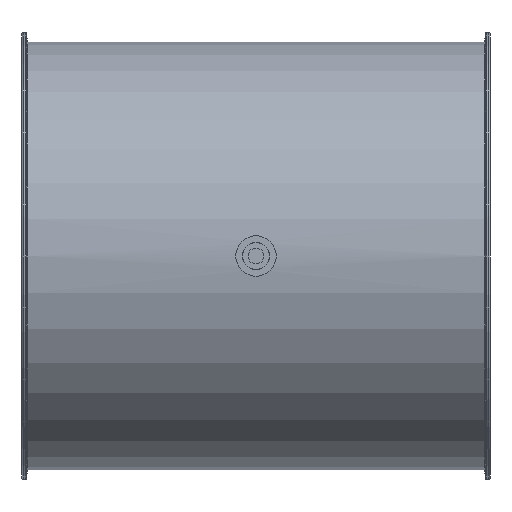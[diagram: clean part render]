
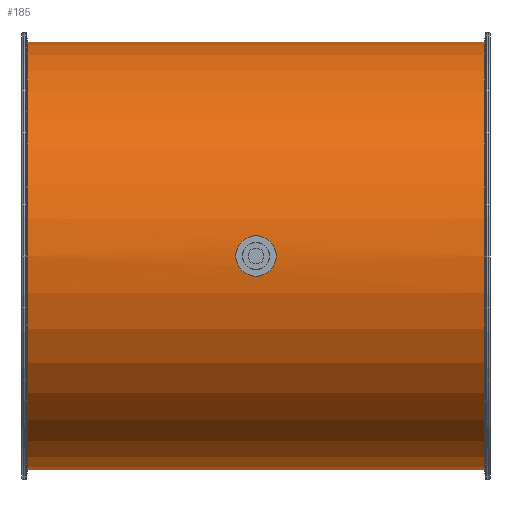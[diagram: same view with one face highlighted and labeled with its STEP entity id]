
A CAD part, front view. The second image highlights one B-rep face of the part: STEP entity #185.
In plain terms, the highlighted cylindrical face has radius 201 mm (diameter 402 mm), a full revolution.
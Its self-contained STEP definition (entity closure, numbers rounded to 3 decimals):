
#103=B_SPLINE_CURVE_WITH_KNOTS('',3,(#1421,#1422,#1423,#1424,#1425,#1426,
#1427,#1428,#1429,#1430,#1431,#1432,#1433,#1434,#1435,#1436,#1437,#1438),
 .UNSPECIFIED.,.T.,.F.,(2,2,2,2,2,2,2,2,2,2,2),(-0.125,0.,0.125,
0.25,0.375,0.5,0.625,
0.75,0.875,1.,1.125),.UNSPECIFIED.);
#104=B_SPLINE_CURVE_WITH_KNOTS('',3,(#1440,#1441,#1442,#1443,#1444,#1445,
#1446,#1447,#1448,#1449,#1450,#1451,#1452,#1453,#1454,#1455,#1456,#1457),
 .UNSPECIFIED.,.T.,.F.,(2,2,2,2,2,2,2,2,2,2,2),(-0.125,0.,0.125,
0.25,0.375,0.5,0.625,0.75,0.875,
1.,1.125),.UNSPECIFIED.);
#131=CYLINDRICAL_SURFACE('',#982,201.);
#185=ADVANCED_FACE('',(#317,#318,#319,#320),#131,.T.);
#317=FACE_BOUND('',#437,.T.);
#318=FACE_BOUND('',#438,.T.);
#319=FACE_BOUND('',#439,.T.);
#320=FACE_BOUND('',#440,.T.);
#437=EDGE_LOOP('',(#599));
#438=EDGE_LOOP('',(#600));
#439=EDGE_LOOP('',(#601));
#440=EDGE_LOOP('',(#602));
#599=ORIENTED_EDGE('',*,*,#825,.T.);
#600=ORIENTED_EDGE('',*,*,#826,.F.);
#601=ORIENTED_EDGE('',*,*,#827,.F.);
#602=ORIENTED_EDGE('',*,*,#828,.T.);
#739=VERTEX_POINT('',#1420);
#740=VERTEX_POINT('',#1439);
#741=VERTEX_POINT('',#1458);
#742=VERTEX_POINT('',#1460);
#825=EDGE_CURVE('',#739,#739,#899,.T.);
#826=EDGE_CURVE('',#740,#740,#103,.T.);
#827=EDGE_CURVE('',#741,#741,#104,.T.);
#828=EDGE_CURVE('',#742,#742,#900,.T.);
#899=CIRCLE('',#980,201.);
#900=CIRCLE('',#981,201.);
#980=AXIS2_PLACEMENT_3D('',#1419,#1156,#1157);
#981=AXIS2_PLACEMENT_3D('',#1459,#1158,#1159);
#982=AXIS2_PLACEMENT_3D('',#1461,#1160,#1161);
#1156=DIRECTION('',(-1.,0.,0.));
#1157=DIRECTION('',(0.,0.,-1.));
#1158=DIRECTION('',(1.,0.,0.));
#1159=DIRECTION('',(0.,0.,1.));
#1160=DIRECTION('',(1.,0.,0.));
#1161=DIRECTION('',(0.,0.,-1.));
#1419=CARTESIAN_POINT('',(214.83,-109.,125.));
#1420=CARTESIAN_POINT('',(214.83,-109.,-76.));
#1421=CARTESIAN_POINT('',(3.436,91.579,112.));
#1422=CARTESIAN_POINT('',(-3.436,91.579,112.));
#1423=CARTESIAN_POINT('',(-6.796,91.68,113.41));
#1424=CARTESIAN_POINT('',(-11.591,91.9,118.207));
#1425=CARTESIAN_POINT('',(-12.998,92.,121.601));
#1426=CARTESIAN_POINT('',(-13.002,92.,128.385));
#1427=CARTESIAN_POINT('',(-11.623,91.901,131.76));
#1428=CARTESIAN_POINT('',(-6.771,91.679,136.616));
#1429=CARTESIAN_POINT('',(-3.399,91.579,137.999));
#1430=CARTESIAN_POINT('',(3.389,91.579,138.001));
#1431=CARTESIAN_POINT('',(6.784,91.68,136.596));
#1432=CARTESIAN_POINT('',(11.583,91.899,131.807));
#1433=CARTESIAN_POINT('',(12.997,92.,128.444));
#1434=CARTESIAN_POINT('',(13.003,92.,121.581));
#1435=CARTESIAN_POINT('',(11.597,91.9,118.216));
#1436=CARTESIAN_POINT('',(6.802,91.68,113.414));
#1437=CARTESIAN_POINT('',(3.436,91.579,112.));
#1438=CARTESIAN_POINT('',(-3.436,91.579,112.));
#1439=CARTESIAN_POINT('',(0.,91.579,112.));
#1440=CARTESIAN_POINT('',(-3.436,-309.579,112.));
#1441=CARTESIAN_POINT('',(3.436,-309.579,112.));
#1442=CARTESIAN_POINT('',(6.796,-309.68,113.41));
#1443=CARTESIAN_POINT('',(11.591,-309.9,118.207));
#1444=CARTESIAN_POINT('',(12.998,-310.,121.601));
#1445=CARTESIAN_POINT('',(13.002,-310.,128.385));
#1446=CARTESIAN_POINT('',(11.623,-309.901,131.76));
#1447=CARTESIAN_POINT('',(6.771,-309.679,136.616));
#1448=CARTESIAN_POINT('',(3.399,-309.579,137.999));
#1449=CARTESIAN_POINT('',(-3.389,-309.579,138.001));
#1450=CARTESIAN_POINT('',(-6.784,-309.68,136.596));
#1451=CARTESIAN_POINT('',(-11.583,-309.899,131.807));
#1452=CARTESIAN_POINT('',(-12.997,-310.,128.444));
#1453=CARTESIAN_POINT('',(-13.003,-310.,121.581));
#1454=CARTESIAN_POINT('',(-11.597,-309.9,118.216));
#1455=CARTESIAN_POINT('',(-6.802,-309.68,113.414));
#1456=CARTESIAN_POINT('',(-3.436,-309.579,112.));
#1457=CARTESIAN_POINT('',(3.436,-309.579,112.));
#1458=CARTESIAN_POINT('',(0.,-309.579,112.));
#1459=CARTESIAN_POINT('',(-214.83,-109.,125.));
#1460=CARTESIAN_POINT('',(-214.83,-109.,326.));
#1461=CARTESIAN_POINT('',(-220.,-109.,125.));
